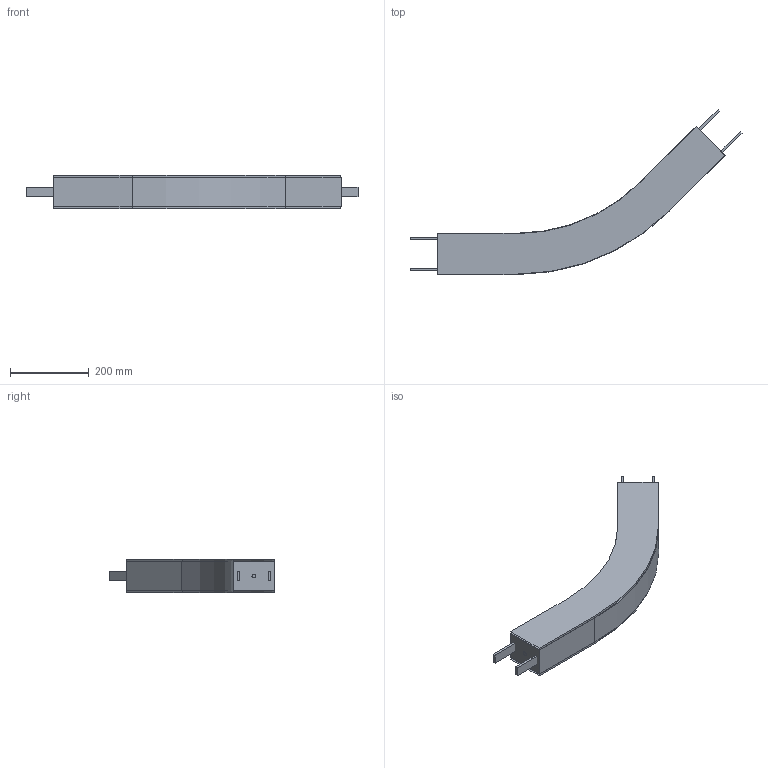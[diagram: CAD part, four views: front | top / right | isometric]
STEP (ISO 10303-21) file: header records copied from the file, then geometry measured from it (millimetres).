
FILE_DESCRIPTION(/* description */ ('Horizontaler Gleitbogen, 45°, R500'),/* implementation_level */ '2;1');
FILE_NAME(/* name */ 'T:\vdz0\Step Daten Website\modulflex FH-System\Horizontale Gleitbögen\FHBP 45R500_44007.stp',/* time_stamp */ '2024-09-03T12:06:28+02:00',/* author */ ('lzb0'),/* organization */ ('modular automation GmbH'),/* preprocessor_version */ 'ST-DEVELOPER v18.1',/* originating_system */ 'Autodesk Inventor 2021',/* authorisation */ '');
FILE_SCHEMA (('AUTOMOTIVE_DESIGN { 1 0 10303 214 3 1 1 }'));
Length unit declared in the file: millimetre
Products named in the file (1): FHBP 45R500
Bounding box: 844.88 x 420.27 x 86 mm (x, y, z)
Volume: 6326505.3 mm3; surface area: 681701.4 mm2
Topology: 5 solids, 9 shells, 52 faces, 126 edges, 84 vertices
Faces by surface type: plane 44, cylinder 8
Full cylindrical faces by diameter (mm): 10 x2
Entity records: 1596 total; most frequent: CARTESIAN_POINT 270, DIRECTION 250, ORIENTED_EDGE 232, EDGE_CURVE 126, LINE 110, VECTOR 110, VERTEX_POINT 84, AXIS2_PLACEMENT_3D 70
